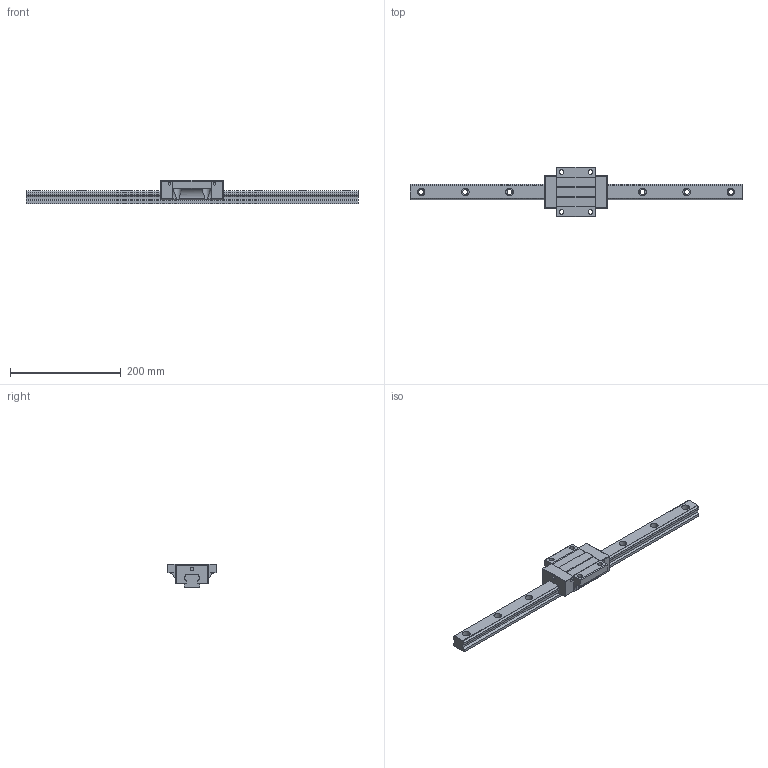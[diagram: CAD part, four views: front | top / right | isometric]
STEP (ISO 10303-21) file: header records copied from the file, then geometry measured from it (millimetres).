
FILE_DESCRIPTION (( 'STEP AP203' ), '1' );
FILE_NAME ('TRH30FN-DU.STEP', '2024-06-28T02:02:45', ( '' ), ( '' ), 'SwSTEP 2.0', 'SolidWorks 2022', '' );
FILE_SCHEMA (( 'CONFIG_CONTROL_DESIGN' ));
Length unit declared in the file: millimetre
Products named in the file (1): TRH30FN-DU
Bounding box: 600 x 90 x 42 mm (x, y, z)
Volume: 530873.7 mm3; surface area: 105608.1 mm2
Topology: 2 solids, 2 shells, 214 faces, 580 edges, 380 vertices
Faces by surface type: cylinder 116, plane 94, sphere 4
Entity records: 7507 total; most frequent: CARTESIAN_POINT 1871, DIRECTION 1184, ORIENTED_EDGE 1152, EDGE_CURVE 576, AXIS2_PLACEMENT_3D 421, VERTEX_POINT 380, VECTOR 342, LINE 342
